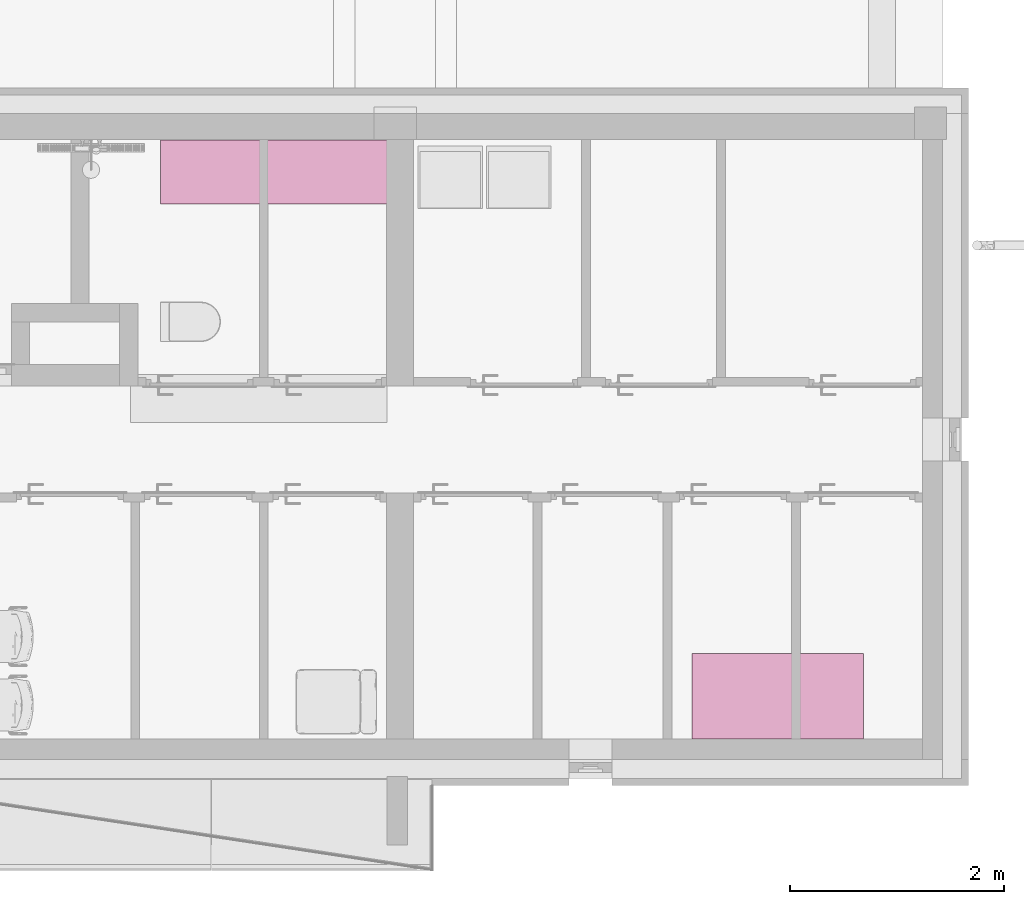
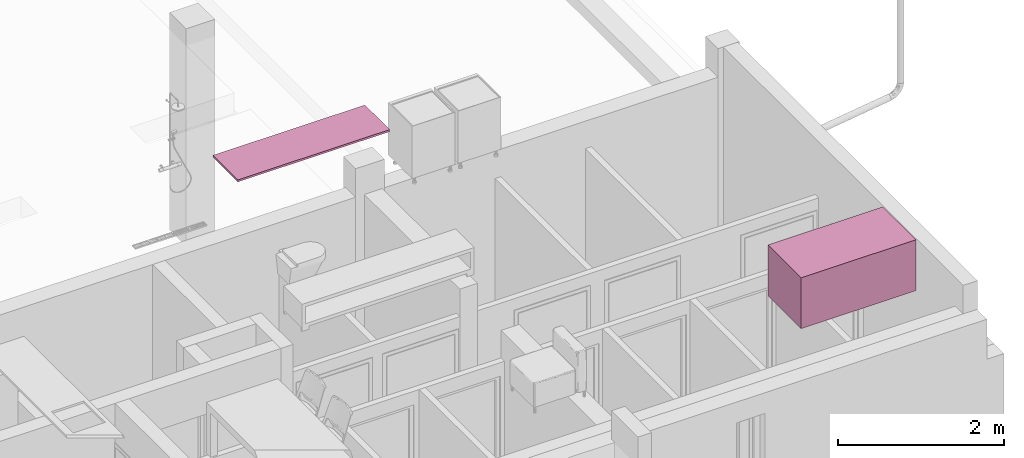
# One storey, part 17 of 55: 2 furnishings.
"""IFC2X3 building model written with IfcOpenShell, lengths in millimetres."""

import ifcopenshell
import ifcopenshell.guid

model = None  # the IFC model being written
_history = None  # IfcOwnerHistory: only IFC2X3 demands one
_inside = {}  # id of a spatial element -> (the spatial element, [elements in it])
_under = {}  # id of a project, library or spatial element -> (it, [spatial elements below it])
_declared = {}  # id of a project -> (the project, [libraries it declares])
_typed = {}  # id of a type object -> (the type object, [elements of that type])
_made_of = {}  # id of a material, layer set ... -> (it, [elements and type objects made of it])


def new_model(schema):
    """Start an empty IFC model of exactly this schema.

    Asked for "IFC4X3", IfcOpenShell would pick the latest addendum, in which some entities
    have other attributes; the version numbers below select the first issue.
    IFC2X3 requires an IfcOwnerHistory on every rooted entity: one is made here for all.
    """
    global model, _history
    if schema == "IFC4X3":
        model = ifcopenshell.file(schema_version=(4, 3, 0, 0))
    else:
        model = ifcopenshell.file(schema=schema)
    _inside.clear()
    _under.clear()
    _declared.clear()
    _typed.clear()
    _made_of.clear()
    _history = None
    if model.schema == "IFC2X3":
        org = make("IfcOrganization", Name="unknown")
        user = make(
            "IfcPersonAndOrganization",
            ThePerson=make("IfcPerson", FamilyName="unknown"),
            TheOrganization=org,
        )
        app = make(
            "IfcApplication",
            ApplicationDeveloper=org,
            Version="unknown",
            ApplicationFullName="unknown",
            ApplicationIdentifier="unknown",
        )
        _history = make(
            "IfcOwnerHistory",
            OwningUser=user,
            OwningApplication=app,
            ChangeAction="ADDED",
            CreationDate=0,
        )
    return model


def make(cls, **values):
    """One entity of the class cls with the attributes given. An attribute that is None is left unset."""
    return model.create_entity(
        cls, **{name: value for name, value in values.items() if value is not None}
    )


def entity(cls, *values):
    """Any entity or typed value of the class cls, its attributes in the order of the schema. None: left unset."""
    e = model.create_entity(cls)
    for i, value in enumerate(values):
        if value is not None:
            e[i] = value
    return e


def rooted(cls, **values):
    """An entity with a GlobalId (a new one), such as an element, a storey or a relation."""
    return make(cls, GlobalId=ifcopenshell.guid.new(), OwnerHistory=_history, **values)


def si_unit(unit_type, name, prefix=None):
    """IfcSIUnit, for example si_unit("LENGTHUNIT", "METRE", prefix="MILLI")."""
    return make("IfcSIUnit", UnitType=unit_type, Prefix=prefix, Name=name)


def converted_unit(unit_type, name, factor, base, dimensions=None, offset=None):
    """IfcConversionBasedUnit, such as the inch: factor (a typed value) times the base unit."""
    return make(
        "IfcConversionBasedUnit"
        if offset is None
        else "IfcConversionBasedUnitWithOffset",
        ConversionOffset=offset,
        Dimensions=None
        if dimensions is None
        else entity("IfcDimensionalExponents", *dimensions),
        UnitType=unit_type,
        Name=name,
        ConversionFactor=make(
            "IfcMeasureWithUnit", ValueComponent=factor, UnitComponent=base
        ),
    )


def assignment(units):
    """IfcUnitAssignment: the units of a project."""
    return None if units is None else make("IfcUnitAssignment", Units=units)


def point(xyz):
    """IfcCartesianPoint."""
    return None if xyz is None else make("IfcCartesianPoint", Coordinates=xyz)


def direction(xyz):
    """IfcDirection."""
    return None if xyz is None else make("IfcDirection", DirectionRatios=xyz)


def frame(location, z_axis=None, x_axis=None):
    """IfcAxis2Placement3D, a coordinate frame: its origin and axes. An axis left out is left unset."""
    return make(
        "IfcAxis2Placement3D",
        Location=point(location),
        Axis=direction(z_axis),
        RefDirection=direction(x_axis),
    )


def frame_2d(location, x_axis=None):
    """IfcAxis2Placement2D, a coordinate frame in the plane: its origin and x axis."""
    return make(
        "IfcAxis2Placement2D", Location=point(location), RefDirection=direction(x_axis)
    )


def origin():
    """The frame at (0, 0, 0) with its axes left unset."""
    return frame((0.0, 0.0, 0.0))


def place(relative_to, where):
    """IfcLocalPlacement: puts the frame where relative to a parent placement (None: the world)."""
    return make(
        "IfcLocalPlacement", PlacementRelTo=relative_to, RelativePlacement=where
    )


def context(
    kind, dimensions, precision=None, world=None, true_north=None, identifier=None
):
    """IfcGeometricRepresentationContext, for example the 3D "Model" context."""
    return make(
        "IfcGeometricRepresentationContext",
        ContextIdentifier=identifier,
        ContextType=kind,
        CoordinateSpaceDimension=dimensions,
        Precision=precision,
        WorldCoordinateSystem=world,
        TrueNorth=true_north,
    )


def subcontext(parent, identifier, kind, view, scale=None):
    """IfcGeometricRepresentationSubContext, for example "Body" below "Model"."""
    return make(
        "IfcGeometricRepresentationSubContext",
        ContextIdentifier=identifier,
        ContextType=kind,
        ParentContext=parent,
        TargetScale=scale,
        TargetView=view,
    )


def project(units=None, contexts=None):
    """IfcProject with its units and contexts."""
    return rooted(
        "IfcProject",
        Name="project",
        RepresentationContexts=contexts,
        UnitsInContext=assignment(units),
    )


def spatial(cls, under=None, at=None, **own):
    """A site, building, storey or space (cls), placed at a placement, below another one or the project."""
    s = rooted(cls, ObjectPlacement=at, **own)
    if under is not None:
        _under.setdefault(under.id(), (under, []))[1].append(s)
    return s


def profile(cls, at=None, kind="AREA", **sizes):
    """A parametric profile (cls). Its sizes go by their IFC names, for example OverallWidth=200.0."""
    return make(cls, ProfileType=kind, Position=at, **sizes)


def rectangle(**sizes):
    """IfcRectangleProfileDef."""
    return profile("IfcRectangleProfileDef", **sizes)


def extrude(swept, where, along, depth):
    """IfcExtrudedAreaSolid: the profile swept, set in the frame where, extruded along a direction by depth."""
    return make(
        "IfcExtrudedAreaSolid",
        SweptArea=swept,
        Position=where,
        ExtrudedDirection=direction(along),
        Depth=depth,
    )


def shape(context_of_items, identifier, shape_type, items):
    """IfcShapeRepresentation: the items that make up one representation, for example the "Body"."""
    return make(
        "IfcShapeRepresentation",
        ContextOfItems=context_of_items,
        RepresentationIdentifier=identifier,
        RepresentationType=shape_type,
        Items=items,
    )


def source(mapping_origin, context_of_items, identifier, shape_type, items):
    """IfcRepresentationMap: a shape defined once, which mapped items show again and again."""
    return make(
        "IfcRepresentationMap",
        MappingOrigin=mapping_origin,
        MappedRepresentation=shape(context_of_items, identifier, shape_type, items),
    )


def transform(
    local_origin,
    x_axis=None,
    y_axis=None,
    z_axis=None,
    scale=None,
    scale2=None,
    scale3=None,
    uniform=True,
):
    """IfcCartesianTransformationOperator3D, or its non-uniform kind. x_axis, y_axis, z_axis: its Axis1, 2, 3."""
    if uniform:
        return make(
            "IfcCartesianTransformationOperator3D",
            Axis1=direction(x_axis),
            Axis2=direction(y_axis),
            LocalOrigin=point(local_origin),
            Scale=scale,
            Axis3=direction(z_axis),
        )
    return make(
        "IfcCartesianTransformationOperator3DnonUniform",
        Axis1=direction(x_axis),
        Axis2=direction(y_axis),
        LocalOrigin=point(local_origin),
        Scale=scale,
        Axis3=direction(z_axis),
        Scale2=scale2,
        Scale3=scale3,
    )


def mapped(mapping_source, mapping_target):
    """IfcMappedItem: shows the shape of a source again, moved by a transform."""
    return make(
        "IfcMappedItem", MappingSource=mapping_source, MappingTarget=mapping_target
    )


def material(Name=None, Category=None):
    """IfcMaterial."""
    return make("IfcMaterial", Name=Name, Category=Category)


def made_of(thing, what):
    """Note that an element or type object is made of a material, layer set ...; save() writes the relation."""
    if what is not None:
        _made_of.setdefault(what.id(), (what, []))[1].append(thing)
    return thing


def type_object(cls, material=None, **own):
    """A type object (cls), such as IfcWallType, which elements share."""
    return made_of(rooted(cls, **own), material)


def type_shapes(of_type, sources):
    """Give a type object the sources (RepresentationMaps) that its elements show as mapped items."""
    of_type.RepresentationMaps = sources


def element(
    cls,
    number,
    at=None,
    inside=None,
    cuts=None,
    type_object=None,
    material=None,
    context=None,
    identifier="Body",
    shape_type=None,
    held_by="IfcProductDefinitionShape",
    body=None,
    shapes=None,
    **own,
):
    """One element of the class cls, such as IfcWall. Its Tag is "e" and its number.

    at: its placement. inside: the storey or other place that contains it. cuts: it is an
    opening in that element (IfcRelVoidsElement). A single representation is given by context,
    identifier, shape_type and body (its items); several are given by shapes. held_by: the class
    of the entity that holds the representations. save() writes the other relations.
    """
    e = rooted(cls, Tag="e%d" % number, ObjectPlacement=at, **own)
    if body is not None:
        shapes = [shape(context, identifier, shape_type, body)]
    if shapes is not None:
        e.Representation = make(held_by, Representations=shapes)
    if inside is not None:
        _inside.setdefault(inside.id(), (inside, []))[1].append(e)
    if cuts is not None:
        rooted(
            "IfcRelVoidsElement", RelatingBuildingElement=cuts, RelatedOpeningElement=e
        )
    if type_object is not None:
        _typed.setdefault(type_object.id(), (type_object, []))[1].append(e)
    return made_of(e, material)


def aggregate(whole, parts):
    """IfcRelAggregates: a whole, such as a stair, and the parts it consists of."""
    return rooted("IfcRelAggregates", RelatingObject=whole, RelatedObjects=parts)


def save(model, path):
    """Write the relations noted so far, then the file.

    IfcRelAggregates (storeys below a building ...), IfcRelContainedInSpatialStructure (elements
    in a storey), IfcRelDefinesByType, IfcRelAssociatesMaterial and IfcRelDeclares: one each for
    every whole, place, type object, material and project.
    """
    for whole, parts in _under.values():
        aggregate(whole, parts)
    for where, things in _inside.values():
        rooted(
            "IfcRelContainedInSpatialStructure",
            RelatedElements=things,
            RelatingStructure=where,
        )
    for kind, things in _typed.values():
        rooted("IfcRelDefinesByType", RelatedObjects=things, RelatingType=kind)
    for what, things in _made_of.values():
        rooted("IfcRelAssociatesMaterial", RelatedObjects=things, RelatingMaterial=what)
    for by, libraries in _declared.values():
        rooted("IfcRelDeclares", RelatingContext=by, RelatedDefinitions=libraries)
    model.write(path)


model = new_model("IFC2X3")

# Units and contexts
model_context = context("Model", 3, precision=0.01, world=origin(), true_north=direction((6.123233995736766e-17, 1.0)))
plan_context = context("Plan", 3, precision=0.01, world=origin(), true_north=direction((6.123233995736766e-17, 1.0)))
body_context = subcontext(model_context, "Body", "Model", "MODEL_VIEW")
ifc_project = project(units=[si_unit("LENGTHUNIT", "METRE", prefix="MILLI"), converted_unit("PLANEANGLEUNIT", "DEGREE", entity("IfcPlaneAngleMeasure", 0.017453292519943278), si_unit("PLANEANGLEUNIT", "RADIAN"), dimensions=[0, 0, 0, 0, 0, 0, 0]), si_unit("AREAUNIT", "SQUARE_METRE")], contexts=[model_context, plan_context])

# Site, building, storey, space
site_placement = place(None, origin())
site = spatial("IfcSite", under=ifc_project, at=site_placement, Name="Default", CompositionType="ELEMENT")
building_placement = place(site_placement, origin())
building = spatial("IfcBuilding", under=site, at=building_placement, CompositionType="ELEMENT")
storey_placement = place(building_placement, origin())
storey = spatial("IfcBuildingStorey", under=building, at=storey_placement, Name="1K", CompositionType="ELEMENT", Elevation=0.0)
space_1_placement = place(storey_placement, origin())
space_1 = spatial("IfcSpace", under=storey, at=space_1_placement, Name="1-0.12", CompositionType="ELEMENT", InteriorOrExteriorSpace="INTERNAL")

# Furnishing
ifc_material = material(Name="<Unnamed>")
furniture_type_1 = type_object("IfcFurnitureType", Name="HR_Furniture_Office-desk_Placeholder_v2:Default", AssemblyPlace="NOTDEFINED", material=ifc_material)
shared_shape_1 = source(origin(), body_context, "Body", "SweptSolid", [
    extrude(rectangle(XDim=800.0, YDim=1600.0000000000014, at=frame_2d((-1.2789769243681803e-12, -2.8421709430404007e-13), x_axis=(1.0, 0.0))), frame((-800.0, -400.0, 0.0), z_axis=(0.0, 0.0, 1.0), x_axis=(0.0, 1.0, 0.0)), (0.0, 0.0, 1.0), 750.0),
])
type_shapes(furniture_type_1, [shared_shape_1])
furnishing_1_placement = place(space_1_placement, frame((14750.0, 800.0, 3125.0), z_axis=(0.0, 0.0, 1.0), x_axis=(-1.0, 0.0, 0.0)))
element("IfcFurnishingElement", 1, at=furnishing_1_placement, inside=space_1, type_object=furniture_type_1, material=ifc_material, Name="HR_Furniture_Office-desk_Placeholder_v2:Default", ObjectType="HR_Furniture_Office-desk_Placeholder_v2:Default", context=body_context, shape_type="MappedRepresentation", body=[
    mapped(shared_shape_1, transform((0.0, 0.0, 0.0), scale=1.0)),
])

# Space
space_2_placement = place(storey_placement, origin())
space_2 = spatial("IfcSpace", under=storey, at=space_2_placement, Name="1-0.7", CompositionType="ELEMENT", InteriorOrExteriorSpace="INTERNAL")

# Furnishing
furniture_type_2 = type_object("IfcFurnitureType", Name="HR_Casework_Work-surface_Generic_Rectangular_v1:Default", AssemblyPlace="NOTDEFINED", material=ifc_material)
shared_shape_2 = source(origin(), body_context, "Body", "SweptSolid", [
    extrude(rectangle(XDim=2116.9935349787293, YDim=600.0, at=frame_2d((9.094947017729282e-13, 0.0), x_axis=(1.0, 0.0))), frame((0.0, 300.0, -2255.0)), (0.0, 0.0, 1.0), 29.999999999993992),
])
type_shapes(furniture_type_2, [shared_shape_2])
furnishing_2_placement = place(space_2_placement, frame((10841.496767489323, 5799.999959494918, 6250.0)))
element("IfcFurnishingElement", 2, at=furnishing_2_placement, inside=space_2, type_object=furniture_type_2, material=ifc_material, Name="HR_Casework_Work-surface_Generic_Rectangular_v1:Default", ObjectType="HR_Casework_Work-surface_Generic_Rectangular_v1:Default", context=body_context, shape_type="MappedRepresentation", body=[
    mapped(shared_shape_2, transform((0.0, 0.0, 0.0), scale=1.0)),
])

save(model, "model.ifc")
